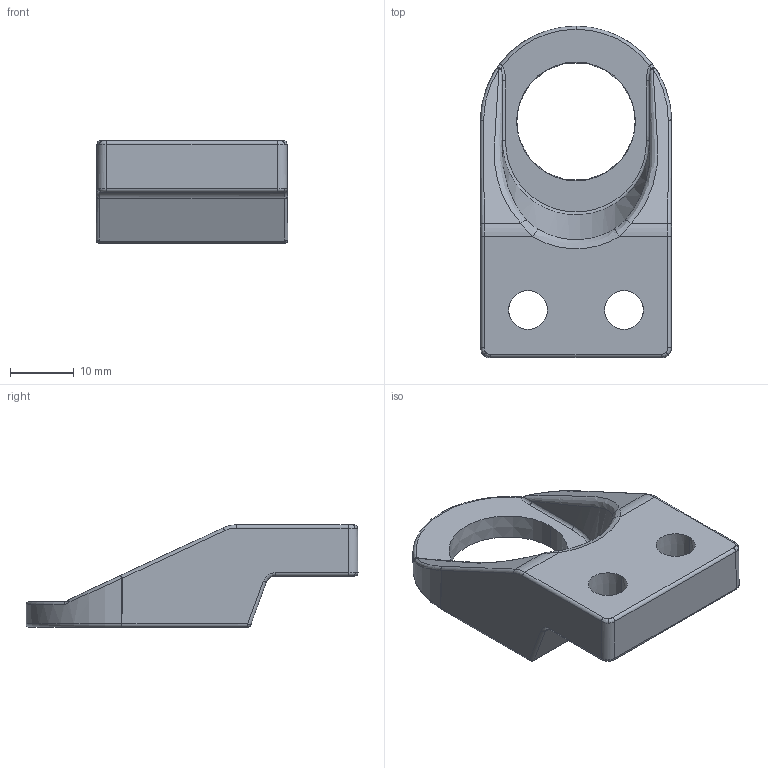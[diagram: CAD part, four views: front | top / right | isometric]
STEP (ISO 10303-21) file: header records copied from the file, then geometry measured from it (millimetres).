
FILE_DESCRIPTION (( 'STEP AP203' ), '1' );
FILE_NAME ('013.100.044.STEP', '2022-03-16T12:30:46', ( '' ), ( '' ), 'SwSTEP 2.0', 'SolidWorks 2021', '' );
FILE_SCHEMA (( 'CONFIG_CONTROL_DESIGN' ));
Length unit declared in the file: millimetre
Products named in the file (1): 013.100.044
Bounding box: 29.99 x 51.92 x 16 mm (x, y, z)
Volume: 9444.4 mm3; surface area: 4518.7 mm2
Topology: 1 solids, 1 shells, 115 faces, 290 edges, 180 vertices
Faces by surface type: bspline 33, cone 30, plane 27, cylinder 18, torus 5, sphere 2
Entity records: 5128 total; most frequent: CARTESIAN_POINT 2538, ORIENTED_EDGE 572, DIRECTION 473, EDGE_CURVE 286, AXIS2_PLACEMENT_3D 184, VERTEX_POINT 178, EDGE_LOOP 126, FACE_OUTER_BOUND 115
